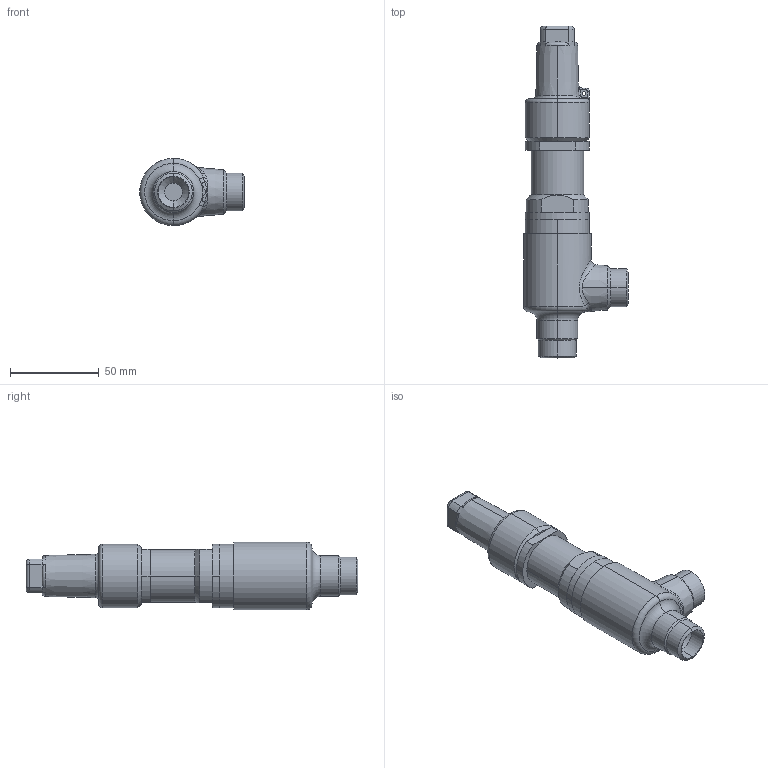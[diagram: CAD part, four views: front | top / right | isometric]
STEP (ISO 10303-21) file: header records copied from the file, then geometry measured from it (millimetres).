
FILE_DESCRIPTION (( 'STEP AP214' ), '1' );
FILE_NAME ('SVU 42200C10-DN15-15_R1.STEP', '2010-09-10T07:44:05', ( 'Eckhard Grams' ), ( 'AWP Kälte Klima Armaturen GmbH' ), 'SwSTEP 2.0', 'SolidWorks 2002296', '' );
FILE_SCHEMA (( 'AUTOMOTIVE_DESIGN' ));
Length unit declared in the file: millimetre
Products named in the file (6): SVU 42200C10-DN15-15_R1; Klemmring 44551-07-DN 8-15_Standard; Einstellschr 44551-07-8080002_DN 8-15_Standard; Deckel 44551-07-DN 8-15_PS40_Standard; Gehäuse42200E10-DN15-15_PS40_R1_Standard; Kappe 36302-10_DN6-15 (M27x1)_Standard
Assembly tree (5 placements, depth 2):
  SVU 42200C10-DN15-15_R1
    Deckel 44551-07-DN 8-15_PS40_Standard
    Gehäuse42200E10-DN15-15_PS40_R1_Standard
    Einstellschr 44551-07-8080002_DN 8-15_Standard
    Kappe 36302-10_DN6-15 (M27x1)_Standard
    Klemmring 44551-07-DN 8-15_Standard
Bounding box: 59 x 187 x 38 mm (x, y, z)
Volume: 110485.6 mm3; surface area: 46632.4 mm2
Topology: 5 solids, 5 shells, 227 faces, 502 edges, 299 vertices
Faces by surface type: cylinder 92, plane 49, cone 39, torus 28, bspline 19
Entity records: 19873 total; most frequent: CARTESIAN_POINT 13957, DIRECTION 1121, ORIENTED_EDGE 1004, EDGE_CURVE 502, AXIS2_PLACEMENT_3D 476, VERTEX_POINT 299, CIRCLE 260, EDGE_LOOP 253
